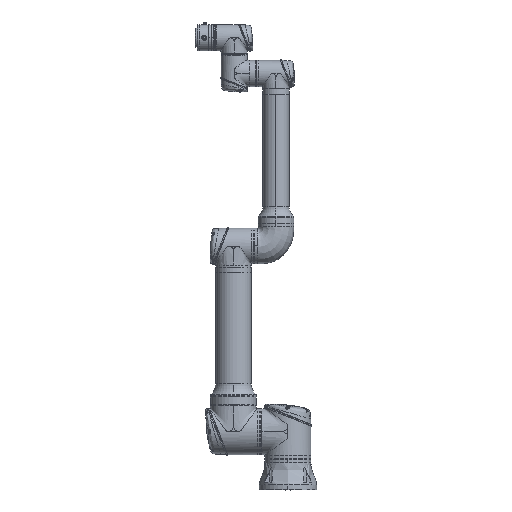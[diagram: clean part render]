
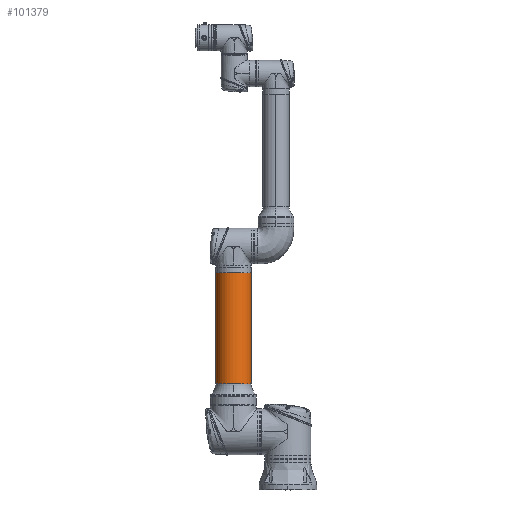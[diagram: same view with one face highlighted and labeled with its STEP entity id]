
A CAD part, top view. The second image highlights one B-rep face of the part: STEP entity #101379.
In plain terms, the highlighted cylindrical face has radius 59 mm (diameter 118 mm), a partial arc.
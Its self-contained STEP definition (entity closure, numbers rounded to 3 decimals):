
#11834 = VECTOR ( 'NONE', #90672, 1000. ) ;
#21418 = CARTESIAN_POINT ( 'NONE',  ( 158.463, 0., 0. ) ) ;
#23019 = VERTEX_POINT ( 'NONE', #298642 ) ;
#24354 = DIRECTION ( 'NONE',  ( 1., 0., 0. ) ) ;
#54642 = CARTESIAN_POINT ( 'NONE',  ( 562.7, 0., -59. ) ) ;
#74967 = CARTESIAN_POINT ( 'NONE',  ( 526.1, 0., -59. ) ) ;
#75867 = DIRECTION ( 'NONE',  ( 1., 0., 0. ) ) ;
#80099 = VERTEX_POINT ( 'NONE', #74967 ) ;
#86508 = AXIS2_PLACEMENT_3D ( 'NONE', #193091, #113359, #399276 ) ;
#90672 = DIRECTION ( 'NONE',  ( 1., 0., 0. ) ) ;
#93449 = AXIS2_PLACEMENT_3D ( 'NONE', #21418, #24354, #299482 ) ;
#101379 = ADVANCED_FACE ( 'NONE', ( #383651 ), #388825, .T. ) ;
#106230 = CARTESIAN_POINT ( 'NONE',  ( 526.1, 0., 59. ) ) ;
#109401 = VERTEX_POINT ( 'NONE', #106230 ) ;
#113275 = VECTOR ( 'NONE', #167443, 1000. ) ;
#113359 = DIRECTION ( 'NONE',  ( 1., 0., 0. ) ) ;
#126435 = AXIS2_PLACEMENT_3D ( 'NONE', #319474, #254793, #390090 ) ;
#145583 = LINE ( 'NONE', #373428, #113275 ) ;
#149331 = ORIENTED_EDGE ( 'NONE', *, *, #162742, .T. ) ;
#149755 = CARTESIAN_POINT ( 'NONE',  ( 158.463, 0., 59. ) ) ;
#162742 = EDGE_CURVE ( 'NONE', #431754, #23019, #289364, .T. ) ;
#167443 = DIRECTION ( 'NONE',  ( 1., 0., 0. ) ) ;
#181318 = EDGE_LOOP ( 'NONE', ( #149331, #267357, #285956, #297301, #343230 ) ) ;
#183749 = EDGE_CURVE ( 'NONE', #80099, #109401, #408349, .T. ) ;
#193091 = CARTESIAN_POINT ( 'NONE',  ( 158.463, 0., 0. ) ) ;
#202996 = EDGE_CURVE ( 'NONE', #431754, #80099, #227171, .T. ) ;
#227171 = LINE ( 'NONE', #54642, #11834 ) ;
#254793 = DIRECTION ( 'NONE',  ( 1., 0., 0. ) ) ;
#267357 = ORIENTED_EDGE ( 'NONE', *, *, #374196, .T. ) ;
#281827 = CARTESIAN_POINT ( 'NONE',  ( 526.1, 0., 0. ) ) ;
#284446 = CIRCLE ( 'NONE', #86508, 59. ) ;
#285956 = ORIENTED_EDGE ( 'NONE', *, *, #340519, .T. ) ;
#289364 = CIRCLE ( 'NONE', #93449, 59. ) ;
#297301 = ORIENTED_EDGE ( 'NONE', *, *, #183749, .F. ) ;
#298642 = CARTESIAN_POINT ( 'NONE',  ( 158.463, 59., 0. ) ) ;
#299482 = DIRECTION ( 'NONE',  ( 0., 1., 0. ) ) ;
#319474 = CARTESIAN_POINT ( 'NONE',  ( 562.7, 0., 0. ) ) ;
#340519 = EDGE_CURVE ( 'NONE', #446339, #109401, #145583, .T. ) ;
#343230 = ORIENTED_EDGE ( 'NONE', *, *, #202996, .F. ) ;
#343466 = DIRECTION ( 'NONE',  ( 0., 0., -1. ) ) ;
#347714 = CARTESIAN_POINT ( 'NONE',  ( 158.463, 0., -59. ) ) ;
#350256 = AXIS2_PLACEMENT_3D ( 'NONE', #281827, #75867, #343466 ) ;
#373428 = CARTESIAN_POINT ( 'NONE',  ( 562.7, 0., 59. ) ) ;
#374196 = EDGE_CURVE ( 'NONE', #23019, #446339, #284446, .T. ) ;
#383651 = FACE_OUTER_BOUND ( 'NONE', #181318, .T. ) ;
#388825 = CYLINDRICAL_SURFACE ( 'NONE', #126435, 59. ) ;
#390090 = DIRECTION ( 'NONE',  ( 0., 0., -1. ) ) ;
#399276 = DIRECTION ( 'NONE',  ( 0., 1., 0. ) ) ;
#408349 = CIRCLE ( 'NONE', #350256, 59. ) ;
#431754 = VERTEX_POINT ( 'NONE', #347714 ) ;
#446339 = VERTEX_POINT ( 'NONE', #149755 ) ;
